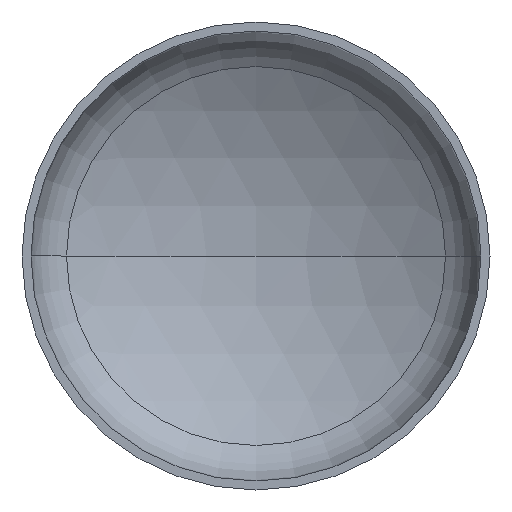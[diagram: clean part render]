
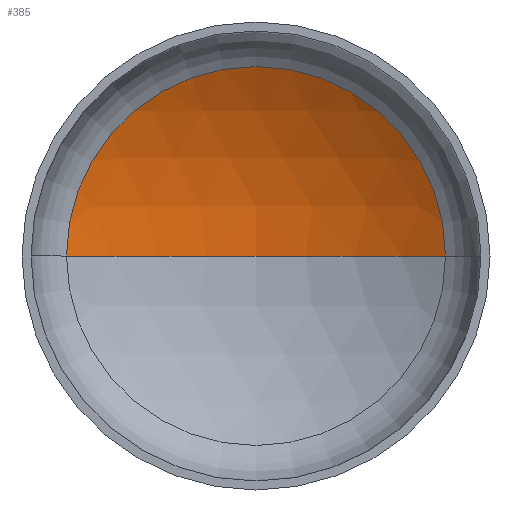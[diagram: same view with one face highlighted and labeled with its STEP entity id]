
A CAD part, front view. The second image highlights one B-rep face of the part: STEP entity #385.
In plain terms, the highlighted spherical face has radius 4400 mm.
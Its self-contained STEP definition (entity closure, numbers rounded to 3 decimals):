
#4 = CARTESIAN_POINT ( 'NONE',  ( 0., -2991.207, 0. ) ) ;
#6 = DIRECTION ( 'NONE',  ( 1., 0., 0. ) ) ;
#15 = CIRCLE ( 'NONE', #78, 4400. ) ;
#19 = DIRECTION ( 'NONE',  ( -1., 0., 0. ) ) ;
#57 = FACE_OUTER_BOUND ( 'NONE', #345, .T. ) ;
#68 = AXIS2_PLACEMENT_3D ( 'NONE', #4, #89, #6 ) ;
#75 = ORIENTED_EDGE ( 'NONE', *, *, #182, .T. ) ;
#77 = CARTESIAN_POINT ( 'NONE',  ( 0., 1408.793, 0. ) ) ;
#78 = AXIS2_PLACEMENT_3D ( 'NONE', #245, #332, #278 ) ;
#84 = CARTESIAN_POINT ( 'NONE',  ( -2226.61, 803.817, 0. ) ) ;
#85 = AXIS2_PLACEMENT_3D ( 'NONE', #169, #158, #162 ) ;
#89 = DIRECTION ( 'NONE',  ( 0., 0., 1. ) ) ;
#96 = DIRECTION ( 'NONE',  ( 0., 0., -1. ) ) ;
#138 = ORIENTED_EDGE ( 'NONE', *, *, #177, .T. ) ;
#150 = SPHERICAL_SURFACE ( 'NONE', #396, 4400. ) ;
#158 = DIRECTION ( 'NONE',  ( 0., -1., 0. ) ) ;
#162 = DIRECTION ( 'NONE',  ( 1., 0., 0. ) ) ;
#169 = CARTESIAN_POINT ( 'NONE',  ( 0., 803.817, 0. ) ) ;
#177 = EDGE_CURVE ( 'NONE', #202, #336, #282, .T. ) ;
#182 = EDGE_CURVE ( 'NONE', #325, #202, #15, .T. ) ;
#186 = EDGE_CURVE ( 'NONE', #325, #336, #361, .T. ) ;
#202 = VERTEX_POINT ( 'NONE', #338 ) ;
#245 = CARTESIAN_POINT ( 'NONE',  ( 0., -2991.207, 0. ) ) ;
#278 = DIRECTION ( 'NONE',  ( -1., 0., 0. ) ) ;
#282 = CIRCLE ( 'NONE', #85, 2226.61 ) ;
#285 = CARTESIAN_POINT ( 'NONE',  ( 0., -2991.207, 0. ) ) ;
#325 = VERTEX_POINT ( 'NONE', #77 ) ;
#332 = DIRECTION ( 'NONE',  ( 0., 0., -1. ) ) ;
#336 = VERTEX_POINT ( 'NONE', #84 ) ;
#338 = CARTESIAN_POINT ( 'NONE',  ( 2226.61, 803.817, 0. ) ) ;
#345 = EDGE_LOOP ( 'NONE', ( #366, #75, #138 ) ) ;
#361 = CIRCLE ( 'NONE', #68, 4400. ) ;
#366 = ORIENTED_EDGE ( 'NONE', *, *, #186, .F. ) ;
#385 = ADVANCED_FACE ( 'NONE', ( #57 ), #150, .F. ) ;
#396 = AXIS2_PLACEMENT_3D ( 'NONE', #285, #96, #19 ) ;
